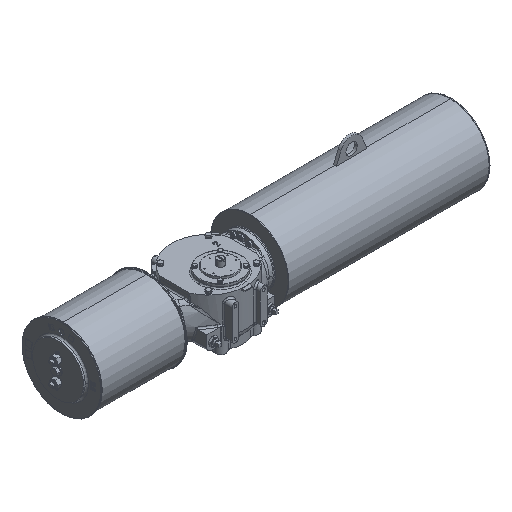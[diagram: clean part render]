
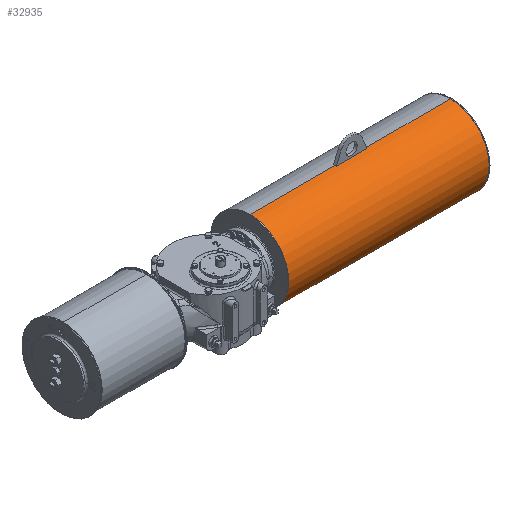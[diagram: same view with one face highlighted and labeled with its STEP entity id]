
A CAD part, isometric view. The second image highlights one B-rep face of the part: STEP entity #32935.
In plain terms, the highlighted cylindrical face has radius 136.5 mm (diameter 273 mm), a partial arc.
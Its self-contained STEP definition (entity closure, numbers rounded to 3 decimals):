
#501 = VECTOR ( 'NONE', #15140, 1000. ) ;
#1070 = CIRCLE ( 'NONE', #43952, 136.5 ) ;
#1203 = DIRECTION ( 'NONE',  ( 0., 1., 0. ) ) ;
#1513 = ORIENTED_EDGE ( 'NONE', *, *, #48678, .T. ) ;
#4965 = AXIS2_PLACEMENT_3D ( 'NONE', #16750, #44308, #1203 ) ;
#5221 = ORIENTED_EDGE ( 'NONE', *, *, #7747, .T. ) ;
#5836 = DIRECTION ( 'NONE',  ( 0., 0., 1. ) ) ;
#7112 = CARTESIAN_POINT ( 'NONE',  ( 587.477, 35.296, 138.5 ) ) ;
#7747 = EDGE_CURVE ( 'NONE', #42987, #40322, #43653, .T. ) ;
#8116 = VECTOR ( 'NONE', #62932, 1000. ) ;
#9061 = VERTEX_POINT ( 'NONE', #7112 ) ;
#11376 = CARTESIAN_POINT ( 'NONE',  ( 587.477, 35.296, 2. ) ) ;
#12505 = CARTESIAN_POINT ( 'NONE',  ( 587.477, 30.296, 138.408 ) ) ;
#14009 = VERTEX_POINT ( 'NONE', #59621 ) ;
#14444 = VECTOR ( 'NONE', #32627, 1000. ) ;
#14847 = EDGE_CURVE ( 'NONE', #38214, #32533, #32482, .T. ) ;
#15140 = DIRECTION ( 'NONE',  ( 1., 0., 0. ) ) ;
#16461 = CARTESIAN_POINT ( 'NONE',  ( 179.977, 35.296, 2. ) ) ;
#16490 = EDGE_CURVE ( 'NONE', #38214, #60457, #34250, .T. ) ;
#16750 = CARTESIAN_POINT ( 'NONE',  ( 479.477, 35.296, 2. ) ) ;
#17074 = CARTESIAN_POINT ( 'NONE',  ( 179.977, 35.296, 2. ) ) ;
#17259 = CYLINDRICAL_SURFACE ( 'NONE', #44581, 136.5 ) ;
#17807 = CARTESIAN_POINT ( 'NONE',  ( 183.477, 35.296, -134.5 ) ) ;
#18327 = CIRCLE ( 'NONE', #25092, 136.5 ) ;
#20696 = AXIS2_PLACEMENT_3D ( 'NONE', #16461, #58874, #5836 ) ;
#21748 = DIRECTION ( 'NONE',  ( -1., 0., 0. ) ) ;
#24425 = CARTESIAN_POINT ( 'NONE',  ( 183.477, 30.296, 138.408 ) ) ;
#25092 = AXIS2_PLACEMENT_3D ( 'NONE', #17074, #38662, #60188 ) ;
#25577 = ORIENTED_EDGE ( 'NONE', *, *, #27251, .T. ) ;
#27251 = EDGE_CURVE ( 'NONE', #40322, #56858, #64525, .T. ) ;
#28204 = EDGE_CURVE ( 'NONE', #60457, #42987, #18327, .T. ) ;
#28241 = DIRECTION ( 'NONE',  ( 1., 0., 0. ) ) ;
#31110 = VECTOR ( 'NONE', #44682, 1000. ) ;
#31294 = CARTESIAN_POINT ( 'NONE',  ( 179.977, 35.296, 138.5 ) ) ;
#31824 = EDGE_CURVE ( 'NONE', #14009, #32533, #64804, .T. ) ;
#32482 = LINE ( 'NONE', #42375, #501 ) ;
#32533 = VERTEX_POINT ( 'NONE', #36603 ) ;
#32627 = DIRECTION ( 'NONE',  ( 1., 0., 0. ) ) ;
#32896 = EDGE_LOOP ( 'NONE', ( #63826, #58632, #5221, #25577, #54898, #1513, #52360, #50878, #44225 ) ) ;
#32935 = ADVANCED_FACE ( 'NONE', ( #45867 ), #17259, .T. ) ;
#32984 = DIRECTION ( 'NONE',  ( 1., 0., 0. ) ) ;
#34250 = CIRCLE ( 'NONE', #20696, 136.5 ) ;
#36603 = CARTESIAN_POINT ( 'NONE',  ( 479.477, 35.296, 138.5 ) ) ;
#37236 = LINE ( 'NONE', #53812, #14444 ) ;
#37757 = CARTESIAN_POINT ( 'NONE',  ( 179.977, 35.296, -134.5 ) ) ;
#38214 = VERTEX_POINT ( 'NONE', #31294 ) ;
#38662 = DIRECTION ( 'NONE',  ( 1., 0., 0. ) ) ;
#38857 = CARTESIAN_POINT ( 'NONE',  ( 183.477, 35.296, 2. ) ) ;
#40322 = VERTEX_POINT ( 'NONE', #51889 ) ;
#40861 = VERTEX_POINT ( 'NONE', #12505 ) ;
#41449 = EDGE_CURVE ( 'NONE', #40861, #14009, #68937, .T. ) ;
#42375 = CARTESIAN_POINT ( 'NONE',  ( 183.477, 35.296, 138.5 ) ) ;
#42987 = VERTEX_POINT ( 'NONE', #37757 ) ;
#43077 = AXIS2_PLACEMENT_3D ( 'NONE', #64538, #21748, #53947 ) ;
#43653 = LINE ( 'NONE', #17807, #31110 ) ;
#43952 = AXIS2_PLACEMENT_3D ( 'NONE', #11376, #32984, #60139 ) ;
#44225 = ORIENTED_EDGE ( 'NONE', *, *, #14847, .F. ) ;
#44308 = DIRECTION ( 'NONE',  ( -1., 0., 0. ) ) ;
#44581 = AXIS2_PLACEMENT_3D ( 'NONE', #38857, #28241, #49767 ) ;
#44682 = DIRECTION ( 'NONE',  ( 1., 0., 0. ) ) ;
#45867 = FACE_OUTER_BOUND ( 'NONE', #32896, .T. ) ;
#48678 = EDGE_CURVE ( 'NONE', #9061, #40861, #1070, .T. ) ;
#49767 = DIRECTION ( 'NONE',  ( 0., 0., 1. ) ) ;
#50878 = ORIENTED_EDGE ( 'NONE', *, *, #31824, .T. ) ;
#51866 = CARTESIAN_POINT ( 'NONE',  ( 179.977, -101.204, 2. ) ) ;
#51889 = CARTESIAN_POINT ( 'NONE',  ( 886.977, 35.296, -134.5 ) ) ;
#52360 = ORIENTED_EDGE ( 'NONE', *, *, #41449, .T. ) ;
#53812 = CARTESIAN_POINT ( 'NONE',  ( 183.477, 35.296, 138.5 ) ) ;
#53947 = DIRECTION ( 'NONE',  ( 0., 0., 1. ) ) ;
#54898 = ORIENTED_EDGE ( 'NONE', *, *, #62252, .F. ) ;
#56858 = VERTEX_POINT ( 'NONE', #69215 ) ;
#58632 = ORIENTED_EDGE ( 'NONE', *, *, #28204, .T. ) ;
#58874 = DIRECTION ( 'NONE',  ( 1., 0., 0. ) ) ;
#59621 = CARTESIAN_POINT ( 'NONE',  ( 479.477, 30.296, 138.408 ) ) ;
#60139 = DIRECTION ( 'NONE',  ( 0., -1., 0. ) ) ;
#60188 = DIRECTION ( 'NONE',  ( 0., 0., 1. ) ) ;
#60457 = VERTEX_POINT ( 'NONE', #51866 ) ;
#62252 = EDGE_CURVE ( 'NONE', #9061, #56858, #37236, .T. ) ;
#62932 = DIRECTION ( 'NONE',  ( -1., 0., 0. ) ) ;
#63826 = ORIENTED_EDGE ( 'NONE', *, *, #16490, .T. ) ;
#64525 = CIRCLE ( 'NONE', #43077, 136.5 ) ;
#64538 = CARTESIAN_POINT ( 'NONE',  ( 886.977, 35.296, 2. ) ) ;
#64804 = CIRCLE ( 'NONE', #4965, 136.5 ) ;
#68937 = LINE ( 'NONE', #24425, #8116 ) ;
#69215 = CARTESIAN_POINT ( 'NONE',  ( 886.977, 35.296, 138.5 ) ) ;
